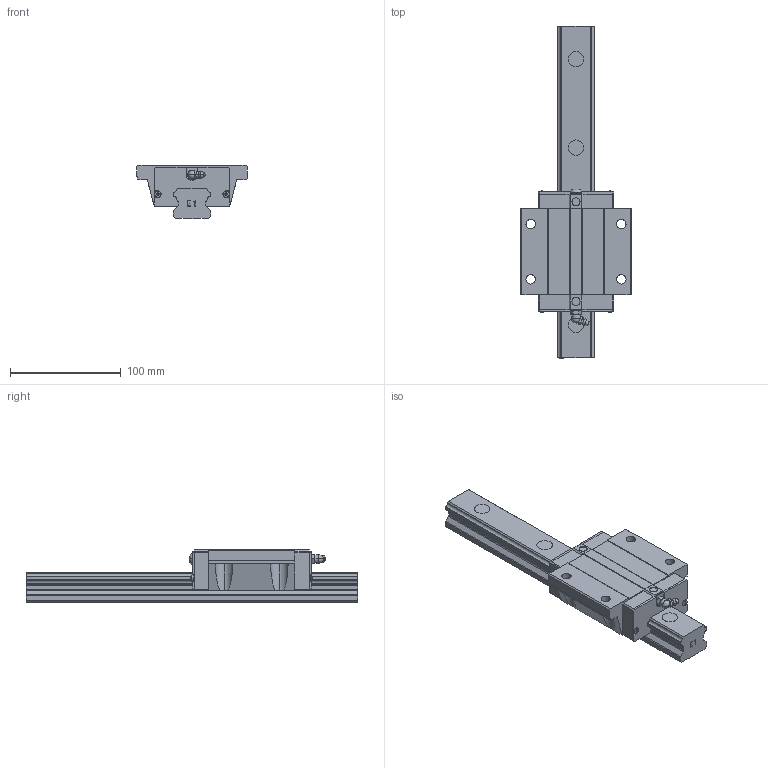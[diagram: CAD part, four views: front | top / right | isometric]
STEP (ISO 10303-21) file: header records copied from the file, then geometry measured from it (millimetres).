
FILE_DESCRIPTION(('no description'),'unknown implementation level');
FILE_NAME('EGW35CC_1_R_300_Z0_H_SS_8.stp',' ',('HIWIN GmbH'),('CADClick - KiM GmbH - www.kimweb.de'),'unknown preprocess','ACIS','unknown authorization');
FILE_SCHEMA(('CONFIG_CONTROL_DESIGN'));
Length unit declared in the file: millimetre
Products named in the file (2): 1; 2
Bounding box: 100 x 300 x 48 mm (x, y, z)
Volume: 486993.3 mm3; surface area: 82698.6 mm2
Topology: 2 solids, 4 shells, 643 faces, 1771 edges, 1160 vertices
Faces by surface type: plane 443, cylinder 146, cone 34, torus 18, sphere 2
Entity records: 20577 total; most frequent: CARTESIAN_POINT 4350, ORIENTED_EDGE 3538, DIRECTION 3241, EDGE_CURVE 1769, VERTEX_POINT 1160, LINE 1147, VECTOR 1147, AXIS2_PLACEMENT_3D 1047
